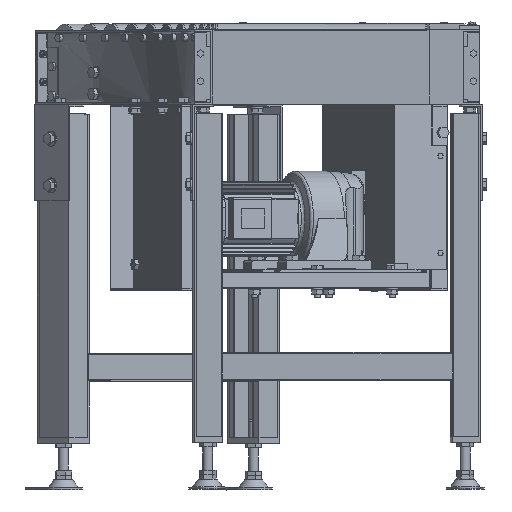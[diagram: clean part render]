
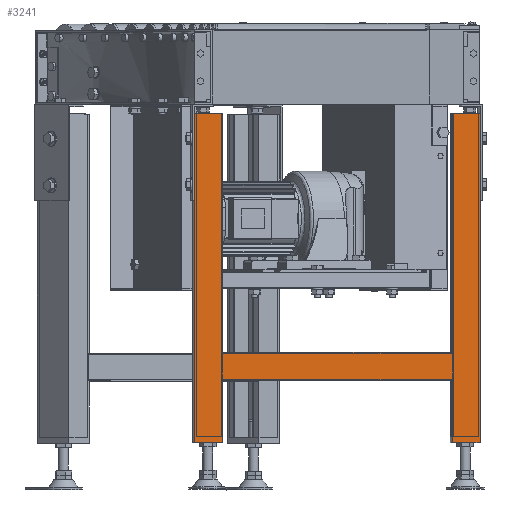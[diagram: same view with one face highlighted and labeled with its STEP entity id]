
A CAD part, top view. The second image highlights one B-rep face of the part: STEP entity #3241.
In plain terms, the highlighted planar face has unit normal (0.045, 0, 0.999).
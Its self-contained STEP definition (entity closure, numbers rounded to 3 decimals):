
#3241=ADVANCED_FACE('',(#28138),#28137,.T.);
#28137=PLANE('',#44390);
#28138=FACE_OUTER_BOUND('',#44391,.T.);
#44387=CARTESIAN_POINT('',(860.816,-685.,-1.398));
#44388=DIRECTION('',(0.045,0.,0.999));
#44389=DIRECTION('',(0.999,0.,-0.045));
#44390=AXIS2_PLACEMENT_3D('',#44387,#44388,#44389);
#44391=EDGE_LOOP('',(#58259,#58260,#58261,#58262,#58263,#58264,#58265,#58266,#58267,#58268,#58269,#58270,#58271,#58272));
#58259=ORIENTED_EDGE('',*,*,#65779,.F.);
#58260=ORIENTED_EDGE('',*,*,#65755,.T.);
#58261=ORIENTED_EDGE('',*,*,#65780,.T.);
#58262=ORIENTED_EDGE('',*,*,#65781,.F.);
#58263=ORIENTED_EDGE('',*,*,#65782,.T.);
#58264=ORIENTED_EDGE('',*,*,#65783,.T.);
#58265=ORIENTED_EDGE('',*,*,#65784,.T.);
#58266=ORIENTED_EDGE('',*,*,#65785,.F.);
#58267=ORIENTED_EDGE('',*,*,#65723,.F.);
#58268=ORIENTED_EDGE('',*,*,#65786,.F.);
#58269=ORIENTED_EDGE('',*,*,#65787,.T.);
#58270=ORIENTED_EDGE('',*,*,#65738,.T.);
#58271=ORIENTED_EDGE('',*,*,#65788,.F.);
#58272=ORIENTED_EDGE('',*,*,#65750,.F.);
#65723=EDGE_CURVE('',#107853,#107861,#107862,.T.);
#65738=EDGE_CURVE('',#107964,#107957,#107965,.T.);
#65750=EDGE_CURVE('',#108041,#108027,#108048,.T.);
#65755=EDGE_CURVE('',#108082,#108075,#108083,.T.);
#65779=EDGE_CURVE('',#108082,#108041,#108241,.T.);
#65780=EDGE_CURVE('',#108075,#108247,#108248,.T.);
#65781=EDGE_CURVE('',#108254,#108247,#108255,.T.);
#65782=EDGE_CURVE('',#108254,#108261,#108262,.T.);
#65783=EDGE_CURVE('',#108261,#108268,#108269,.T.);
#65784=EDGE_CURVE('',#108268,#108275,#108276,.T.);
#65785=EDGE_CURVE('',#107861,#108275,#108282,.T.);
#65786=EDGE_CURVE('',#108288,#107853,#108289,.T.);
#65787=EDGE_CURVE('',#108288,#107964,#108295,.T.);
#65788=EDGE_CURVE('',#108027,#107957,#108301,.T.);
#107853=VERTEX_POINT('',#142358);
#107861=VERTEX_POINT('',#142363);
#107862=LINE('',#142364,#142365);
#107957=VERTEX_POINT('',#142417);
#107964=VERTEX_POINT('',#142421);
#107965=LINE('',#142422,#142423);
#108027=VERTEX_POINT('',#142457);
#108041=VERTEX_POINT('',#142465);
#108048=LINE('',#142469,#142470);
#108075=VERTEX_POINT('',#142484);
#108082=VERTEX_POINT('',#142488);
#108083=LINE('',#142489,#142490);
#108241=LINE('',#142575,#142576);
#108247=VERTEX_POINT('',#142578);
#108248=LINE('',#142579,#142580);
#108254=VERTEX_POINT('',#142582);
#108255=LINE('',#142583,#142584);
#108261=VERTEX_POINT('',#142586);
#108262=LINE('',#142587,#142588);
#108268=VERTEX_POINT('',#142590);
#108269=LINE('',#142591,#142592);
#108275=VERTEX_POINT('',#142594);
#108276=LINE('',#142595,#142596);
#108282=LINE('',#142598,#142599);
#108288=VERTEX_POINT('',#142601);
#108289=LINE('',#142602,#142603);
#108295=LINE('',#142605,#142606);
#108301=LINE('',#142608,#142609);
#142358=CARTESIAN_POINT('',(1285.382,-530.,-20.602));
#142363=CARTESIAN_POINT('',(1285.382,-145.,-20.602));
#142364=CARTESIAN_POINT('',(1285.382,-530.,-20.602));
#142365=VECTOR('',#142366,385.);
#142366=DIRECTION('',(0.,1.,0.));
#142417=CARTESIAN_POINT('',(870.806,-145.,-1.85));
#142421=CARTESIAN_POINT('',(915.76,-145.,-3.883));
#142422=CARTESIAN_POINT('',(915.76,-145.,-3.883));
#142423=VECTOR('',#142424,45.);
#142424=DIRECTION('',(-0.999,0.,0.045));
#142457=CARTESIAN_POINT('',(870.806,-285.,-1.85));
#142465=CARTESIAN_POINT('',(870.806,-675.,-1.85));
#142469=CARTESIAN_POINT('',(870.806,-675.,-1.85));
#142470=VECTOR('',#142471,390.);
#142471=DIRECTION('',(0.,1.,0.));
#142484=CARTESIAN_POINT('',(915.76,-575.,-3.883));
#142488=CARTESIAN_POINT('',(915.76,-675.,-3.883));
#142489=CARTESIAN_POINT('',(915.76,-675.,-3.883));
#142490=VECTOR('',#142491,100.);
#142491=DIRECTION('',(0.,1.,0.));
#142575=CARTESIAN_POINT('',(915.76,-675.,-3.883));
#142576=VECTOR('',#142577,45.);
#142577=DIRECTION('',(-0.999,0.,0.045));
#142578=CARTESIAN_POINT('',(1285.382,-575.,-20.602));
#142579=CARTESIAN_POINT('',(915.76,-575.,-3.883));
#142580=VECTOR('',#142581,370.);
#142581=DIRECTION('',(0.999,0.,-0.045));
#142582=CARTESIAN_POINT('',(1285.382,-675.,-20.602));
#142583=CARTESIAN_POINT('',(1285.382,-675.,-20.602));
#142584=VECTOR('',#142585,100.);
#142585=DIRECTION('',(0.,1.,0.));
#142586=CARTESIAN_POINT('',(1330.336,-675.,-22.635));
#142587=CARTESIAN_POINT('',(1285.382,-675.,-20.602));
#142588=VECTOR('',#142589,45.);
#142589=DIRECTION('',(0.999,0.,-0.045));
#142590=CARTESIAN_POINT('',(1330.336,-285.,-22.635));
#142591=CARTESIAN_POINT('',(1330.336,-675.,-22.635));
#142592=VECTOR('',#142593,390.);
#142593=DIRECTION('',(0.,1.,0.));
#142594=CARTESIAN_POINT('',(1330.336,-145.,-22.635));
#142595=CARTESIAN_POINT('',(1330.336,-285.,-22.635));
#142596=VECTOR('',#142597,140.);
#142597=DIRECTION('',(0.,1.,0.));
#142598=CARTESIAN_POINT('',(1285.382,-145.,-20.602));
#142599=VECTOR('',#142600,45.);
#142600=DIRECTION('',(0.999,0.,-0.045));
#142601=CARTESIAN_POINT('',(915.76,-530.,-3.883));
#142602=CARTESIAN_POINT('',(915.76,-530.,-3.883));
#142603=VECTOR('',#142604,370.);
#142604=DIRECTION('',(0.999,0.,-0.045));
#142605=CARTESIAN_POINT('',(915.76,-530.,-3.883));
#142606=VECTOR('',#142607,385.);
#142607=DIRECTION('',(0.,1.,0.));
#142608=CARTESIAN_POINT('',(870.806,-285.,-1.85));
#142609=VECTOR('',#142610,140.);
#142610=DIRECTION('',(0.,1.,0.));
